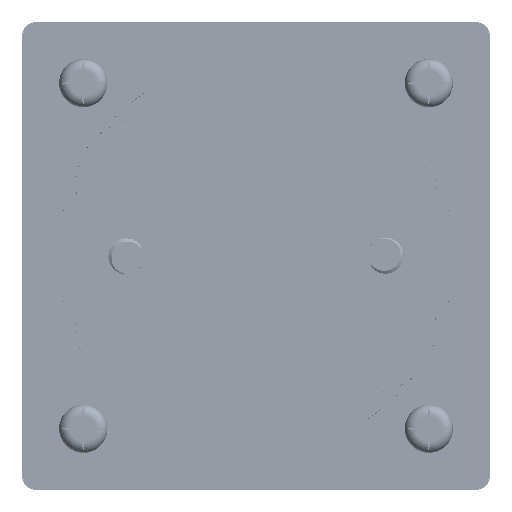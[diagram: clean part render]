
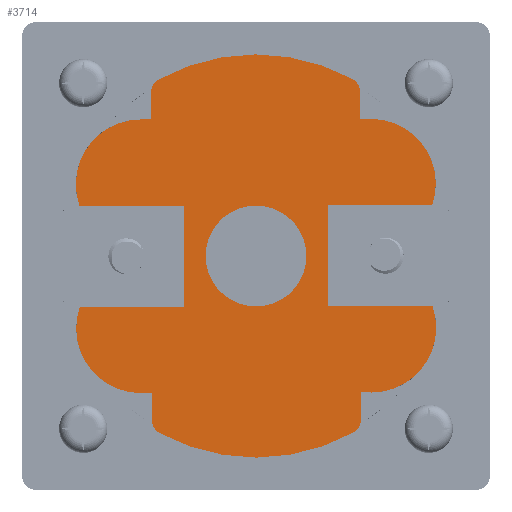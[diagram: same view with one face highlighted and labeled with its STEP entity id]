
A CAD part, front view. The second image highlights one B-rep face of the part: STEP entity #3714.
In plain terms, the highlighted planar face has unit normal (0, -1, 0).
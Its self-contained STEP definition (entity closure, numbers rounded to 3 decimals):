
#3714=ADVANCED_FACE('',(#9806,#9807),#5642,.F.);
#5642=PLANE('',#41438);
#8133=CIRCLE('',#40567,2.);
#8135=CIRCLE('',#40570,28.);
#8137=CIRCLE('',#40573,2.);
#8140=CIRCLE('',#40582,2.);
#8142=CIRCLE('',#40585,28.);
#8144=CIRCLE('',#40588,2.);
#8479=CIRCLE('',#41338,9.);
#8482=CIRCLE('',#41344,9.);
#8483=CIRCLE('',#41347,9.);
#8485=CIRCLE('',#41351,8.96);
#8487=CIRCLE('',#41355,9.);
#8507=CIRCLE('',#41428,7.);
#9806=FACE_BOUND('',#10985,.T.);
#9807=FACE_BOUND('',#10986,.T.);
#10985=EDGE_LOOP('',(#16227,#16228,#16229,#16230,#16231,#16232,#16233,#16234,
#16235,#16236,#16237,#16238,#16239,#16240,#16241,#16242,#16243,#16244,#16245,
#16246,#16247,#16248,#16249,#16250,#16251));
#10986=EDGE_LOOP('',(#16252));
#16227=ORIENTED_EDGE('',*,*,#30584,.F.);
#16228=ORIENTED_EDGE('',*,*,#30145,.T.);
#16229=ORIENTED_EDGE('',*,*,#30148,.T.);
#16230=ORIENTED_EDGE('',*,*,#29027,.T.);
#16231=ORIENTED_EDGE('',*,*,#29025,.T.);
#16232=ORIENTED_EDGE('',*,*,#29022,.T.);
#16233=ORIENTED_EDGE('',*,*,#29019,.T.);
#16234=ORIENTED_EDGE('',*,*,#29016,.T.);
#16235=ORIENTED_EDGE('',*,*,#30151,.T.);
#16236=ORIENTED_EDGE('',*,*,#30154,.T.);
#16237=ORIENTED_EDGE('',*,*,#30157,.T.);
#16238=ORIENTED_EDGE('',*,*,#30591,.F.);
#16239=ORIENTED_EDGE('',*,*,#30586,.F.);
#16240=ORIENTED_EDGE('',*,*,#30592,.F.);
#16241=ORIENTED_EDGE('',*,*,#30131,.T.);
#16242=ORIENTED_EDGE('',*,*,#30134,.T.);
#16243=ORIENTED_EDGE('',*,*,#28933,.T.);
#16244=ORIENTED_EDGE('',*,*,#28931,.T.);
#16245=ORIENTED_EDGE('',*,*,#28928,.T.);
#16246=ORIENTED_EDGE('',*,*,#28925,.T.);
#16247=ORIENTED_EDGE('',*,*,#28921,.T.);
#16248=ORIENTED_EDGE('',*,*,#30136,.T.);
#16249=ORIENTED_EDGE('',*,*,#30140,.T.);
#16250=ORIENTED_EDGE('',*,*,#30583,.F.);
#16251=ORIENTED_EDGE('',*,*,#30578,.F.);
#16252=ORIENTED_EDGE('',*,*,#30577,.F.);
#24939=VERTEX_POINT('',#54881);
#24940=VERTEX_POINT('',#54883);
#24942=VERTEX_POINT('',#54890);
#24944=VERTEX_POINT('',#54896);
#24945=VERTEX_POINT('',#54901);
#24946=VERTEX_POINT('',#54905);
#25021=VERTEX_POINT('',#55072);
#25022=VERTEX_POINT('',#55074);
#25024=VERTEX_POINT('',#55080);
#25026=VERTEX_POINT('',#55086);
#25027=VERTEX_POINT('',#55091);
#25028=VERTEX_POINT('',#55095);
#25737=VERTEX_POINT('',#67368);
#25738=VERTEX_POINT('',#67370);
#25740=VERTEX_POINT('',#67378);
#25743=VERTEX_POINT('',#67386);
#25746=VERTEX_POINT('',#67402);
#25747=VERTEX_POINT('',#67404);
#25750=VERTEX_POINT('',#67420);
#25752=VERTEX_POINT('',#67432);
#25754=VERTEX_POINT('',#67438);
#26042=VERTEX_POINT('',#95819);
#26043=VERTEX_POINT('',#95822);
#26044=VERTEX_POINT('',#95823);
#26047=VERTEX_POINT('',#95838);
#26048=VERTEX_POINT('',#95839);
#28921=EDGE_CURVE('',#24940,#24939,#34801,.T.);
#28925=EDGE_CURVE('',#24942,#24940,#8133,.T.);
#28928=EDGE_CURVE('',#24944,#24942,#8135,.T.);
#28931=EDGE_CURVE('',#24945,#24944,#8137,.T.);
#28933=EDGE_CURVE('',#24946,#24945,#34807,.T.);
#29016=EDGE_CURVE('',#25022,#25021,#34887,.T.);
#29019=EDGE_CURVE('',#25024,#25022,#8140,.T.);
#29022=EDGE_CURVE('',#25026,#25024,#8142,.T.);
#29025=EDGE_CURVE('',#25027,#25026,#8144,.T.);
#29027=EDGE_CURVE('',#25028,#25027,#34892,.T.);
#30131=EDGE_CURVE('',#25738,#25737,#8479,.T.);
#30134=EDGE_CURVE('',#25737,#24946,#35512,.T.);
#30136=EDGE_CURVE('',#24939,#25740,#35514,.T.);
#30140=EDGE_CURVE('',#25740,#25743,#8482,.T.);
#30145=EDGE_CURVE('',#25747,#25746,#8483,.T.);
#30148=EDGE_CURVE('',#25746,#25028,#35520,.T.);
#30151=EDGE_CURVE('',#25021,#25750,#8485,.T.);
#30154=EDGE_CURVE('',#25750,#25752,#35521,.T.);
#30157=EDGE_CURVE('',#25752,#25754,#8487,.T.);
#30577=EDGE_CURVE('',#26042,#26042,#8507,.T.);
#30578=EDGE_CURVE('',#26043,#26044,#35674,.T.);
#30583=EDGE_CURVE('',#26044,#25743,#35679,.T.);
#30584=EDGE_CURVE('',#25747,#26043,#35680,.T.);
#30586=EDGE_CURVE('',#26047,#26048,#35682,.T.);
#30591=EDGE_CURVE('',#26048,#25754,#35687,.T.);
#30592=EDGE_CURVE('',#25738,#26047,#35688,.T.);
#34801=LINE('',#54882,#37696);
#34807=LINE('',#54904,#37702);
#34887=LINE('',#55073,#37782);
#34892=LINE('',#55094,#37787);
#35512=LINE('',#67375,#38413);
#35514=LINE('',#67379,#38415);
#35520=LINE('',#67409,#38421);
#35521=LINE('',#67433,#38422);
#35674=LINE('',#95821,#38575);
#35679=LINE('',#95831,#38580);
#35680=LINE('',#95833,#38581);
#35682=LINE('',#95837,#38583);
#35687=LINE('',#95847,#38588);
#35688=LINE('',#95849,#38589);
#37696=VECTOR('',#44421,1.);
#37702=VECTOR('',#44447,1.);
#37782=VECTOR('',#44537,1.);
#37787=VECTOR('',#44562,1.);
#38413=VECTOR('',#46690,1.);
#38415=VECTOR('',#46694,1.);
#38421=VECTOR('',#46716,1.);
#38422=VECTOR('',#46723,1.);
#38575=VECTOR('',#47030,1.);
#38580=VECTOR('',#47037,1.);
#38581=VECTOR('',#47040,1.);
#38583=VECTOR('',#47046,1.);
#38588=VECTOR('',#47053,1.);
#38589=VECTOR('',#47056,1.);
#40567=AXIS2_PLACEMENT_3D('',#54889,#44428,#44429);
#40570=AXIS2_PLACEMENT_3D('',#54895,#44435,#44436);
#40573=AXIS2_PLACEMENT_3D('',#54900,#44442,#44443);
#40582=AXIS2_PLACEMENT_3D('',#55079,#44543,#44544);
#40585=AXIS2_PLACEMENT_3D('',#55085,#44550,#44551);
#40588=AXIS2_PLACEMENT_3D('',#55090,#44557,#44558);
#41338=AXIS2_PLACEMENT_3D('',#67369,#46683,#46684);
#41344=AXIS2_PLACEMENT_3D('',#67387,#46701,#46702);
#41347=AXIS2_PLACEMENT_3D('',#67403,#46709,#46710);
#41351=AXIS2_PLACEMENT_3D('',#67421,#46719,#46720);
#41355=AXIS2_PLACEMENT_3D('',#67439,#46729,#46730);
#41428=AXIS2_PLACEMENT_3D('',#95818,#47026,#47027);
#41438=AXIS2_PLACEMENT_3D('',#95853,#47062,#47063);
#44421=DIRECTION('',(0.003,0.,-1.));
#44428=DIRECTION('',(0.,-1.,0.));
#44429=DIRECTION('',(1.,0.,0.003));
#44435=DIRECTION('',(0.,-1.,0.));
#44436=DIRECTION('',(1.,0.,0.003));
#44442=DIRECTION('',(0.,-1.,0.));
#44443=DIRECTION('',(1.,0.,0.003));
#44447=DIRECTION('',(-0.003,0.,1.));
#44537=DIRECTION('',(-0.003,0.,1.));
#44543=DIRECTION('',(0.,-1.,0.));
#44544=DIRECTION('',(1.,0.,0.003));
#44550=DIRECTION('',(0.,-1.,0.));
#44551=DIRECTION('',(1.,0.,0.003));
#44557=DIRECTION('',(0.,-1.,0.));
#44558=DIRECTION('',(1.,0.,0.003));
#44562=DIRECTION('',(0.003,0.,-1.));
#46683=DIRECTION('',(0.,-1.,0.));
#46684=DIRECTION('',(1.,0.,0.003));
#46690=DIRECTION('',(-1.,0.,-0.003));
#46694=DIRECTION('',(-1.,0.,-0.003));
#46701=DIRECTION('',(0.,-1.,0.));
#46702=DIRECTION('',(-1.,0.,-0.003));
#46709=DIRECTION('',(0.,-1.,0.));
#46710=DIRECTION('',(-0.89,0.,0.456));
#46716=DIRECTION('',(1.,0.,0.003));
#46719=DIRECTION('',(0.,-1.,0.));
#46720=DIRECTION('',(0.,0.,-1.));
#46723=DIRECTION('',(1.,0.,0.003));
#46729=DIRECTION('',(0.,-1.,0.));
#46730=DIRECTION('',(0.,0.,-1.));
#47026=DIRECTION('',(0.,-1.,0.));
#47027=DIRECTION('',(-1.,0.,-0.003));
#47030=DIRECTION('',(-0.003,0.,1.));
#47037=DIRECTION('',(-1.,0.,-0.003));
#47040=DIRECTION('',(1.,0.,0.003));
#47046=DIRECTION('',(0.003,0.,-1.));
#47053=DIRECTION('',(1.,0.,0.003));
#47056=DIRECTION('',(-1.,0.,-0.003));
#47062=DIRECTION('',(0.,1.,0.));
#47063=DIRECTION('',(0.,0.,1.));
#54881=CARTESIAN_POINT('',(-14.549,-162.1,18.963));
#54882=CARTESIAN_POINT('',(-14.558,-162.1,22.761));
#54883=CARTESIAN_POINT('',(-14.558,-162.1,22.761));
#54889=CARTESIAN_POINT('',(-12.558,-162.1,22.766));
#54890=CARTESIAN_POINT('',(-13.525,-162.1,24.517));
#54895=CARTESIAN_POINT('',(0.,-162.1,0.));
#54896=CARTESIAN_POINT('',(13.398,-162.1,24.586));
#54900=CARTESIAN_POINT('',(12.441,-162.1,22.83));
#54901=CARTESIAN_POINT('',(14.441,-162.1,22.835));
#54904=CARTESIAN_POINT('',(14.451,-162.1,19.037));
#54905=CARTESIAN_POINT('',(14.451,-162.1,19.037));
#55072=CARTESIAN_POINT('',(14.548,-162.1,-18.837));
#55073=CARTESIAN_POINT('',(14.558,-162.1,-22.761));
#55074=CARTESIAN_POINT('',(14.558,-162.1,-22.761));
#55079=CARTESIAN_POINT('',(12.558,-162.1,-22.766));
#55080=CARTESIAN_POINT('',(13.525,-162.1,-24.517));
#55085=CARTESIAN_POINT('',(0.,-162.1,0.));
#55086=CARTESIAN_POINT('',(-13.398,-162.1,-24.586));
#55090=CARTESIAN_POINT('',(-12.441,-162.1,-22.83));
#55091=CARTESIAN_POINT('',(-14.441,-162.1,-22.835));
#55094=CARTESIAN_POINT('',(-14.451,-162.1,-19.037));
#55095=CARTESIAN_POINT('',(-14.451,-162.1,-19.037));
#67368=CARTESIAN_POINT('',(15.951,-162.1,19.041));
#67369=CARTESIAN_POINT('',(15.974,-162.1,10.041));
#67370=CARTESIAN_POINT('',(24.467,-162.1,7.063));
#67375=CARTESIAN_POINT('',(15.951,-162.1,19.041));
#67378=CARTESIAN_POINT('',(-16.049,-162.1,18.959));
#67379=CARTESIAN_POINT('',(-14.549,-162.1,18.963));
#67386=CARTESIAN_POINT('',(-24.503,-162.1,6.937));
#67387=CARTESIAN_POINT('',(-16.026,-162.1,9.959));
#67402=CARTESIAN_POINT('',(-15.951,-162.1,-19.041));
#67403=CARTESIAN_POINT('',(-15.974,-162.1,-10.041));
#67404=CARTESIAN_POINT('',(-24.468,-162.1,-7.063));
#67409=CARTESIAN_POINT('',(23.753,-162.1,-18.934));
#67420=CARTESIAN_POINT('',(15.978,-162.1,-18.959));
#67421=CARTESIAN_POINT('',(16.02,-162.1,-9.999));
#67432=CARTESIAN_POINT('',(16.119,-162.1,-18.958));
#67433=CARTESIAN_POINT('',(23.752,-162.1,-18.938));
#67438=CARTESIAN_POINT('',(24.503,-162.1,-6.937));
#67439=CARTESIAN_POINT('',(16.026,-162.1,-9.959));
#95818=CARTESIAN_POINT('',(0.,-162.1,0.));
#95819=CARTESIAN_POINT('',(-7.,-162.1,-0.018));
#95821=CARTESIAN_POINT('',(-9.982,-162.1,-7.026));
#95822=CARTESIAN_POINT('',(-9.982,-162.1,-7.026));
#95823=CARTESIAN_POINT('',(-10.018,-162.1,6.974));
#95831=CARTESIAN_POINT('',(-10.018,-162.1,6.974));
#95833=CARTESIAN_POINT('',(-34.164,-162.1,-7.088));
#95837=CARTESIAN_POINT('',(9.982,-162.1,7.026));
#95838=CARTESIAN_POINT('',(9.982,-162.1,7.026));
#95839=CARTESIAN_POINT('',(10.018,-162.1,-6.974));
#95847=CARTESIAN_POINT('',(10.018,-162.1,-6.974));
#95849=CARTESIAN_POINT('',(34.164,-162.1,7.088));
#95853=CARTESIAN_POINT('',(23.741,-162.1,-14.593));
